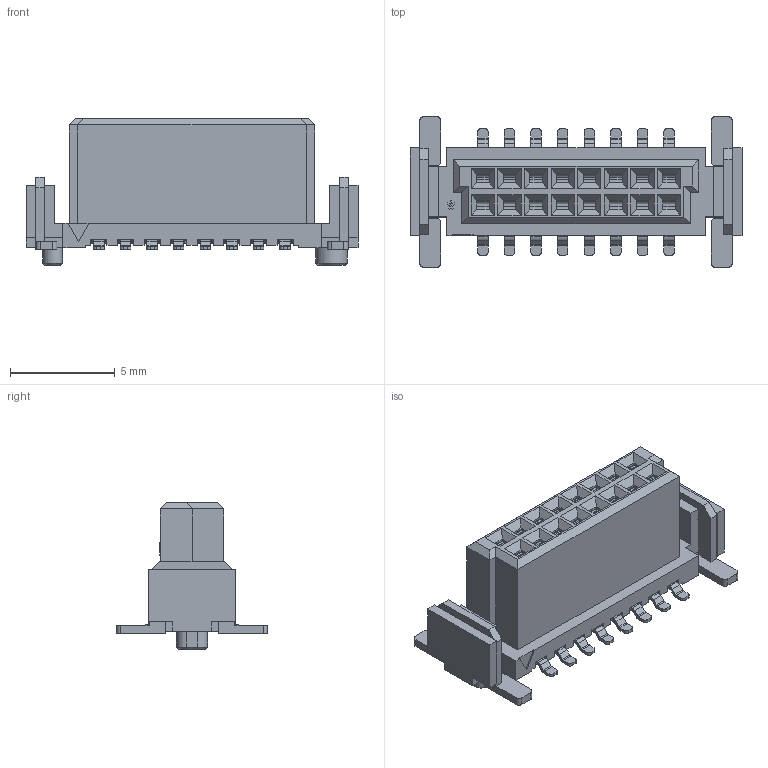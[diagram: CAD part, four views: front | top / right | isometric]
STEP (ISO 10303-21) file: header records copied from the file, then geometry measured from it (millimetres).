
FILE_DESCRIPTION(('STEP AP242'),'1');
FILE_NAME('1374028.stp','2025-11-19T09:47:22',('TraceParts'),('TraceParts S.A.S.'),'Spatial InterOp 3D',' ',' ');
FILE_SCHEMA(('AP242_MANAGED_MODEL_BASED_3D_ENGINEERING_MIM_LF {1 0 10303 442 1 1 4}'));
Length unit declared in the file: millimetre
Products named in the file (1): FR 1.27-16-FV 6.25|1#LP_FR_1_27_FV_6_25_CONTACT;LP_FR_1_27_FV_6_25_CONTACT
Bounding box: 15.85 x 7.2 x 7 mm (x, y, z)
Volume: 237.7 mm3; surface area: 1114 mm2
Topology: 19 solids, 19 shells, 1231 faces, 3438 edges, 2266 vertices
Faces by surface type: plane 891, cylinder 336, cone 4
Entity records: 49397 total; most frequent: CARTESIAN_POINT 6954, ORIENTED_EDGE 6876, DIRECTION 6614, EDGE_CURVE 3438, LINE 2762, VECTOR 2762, VERTEX_POINT 2266, AXIS2_PLACEMENT_3D 1926
